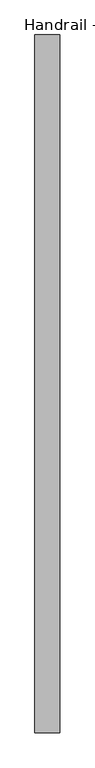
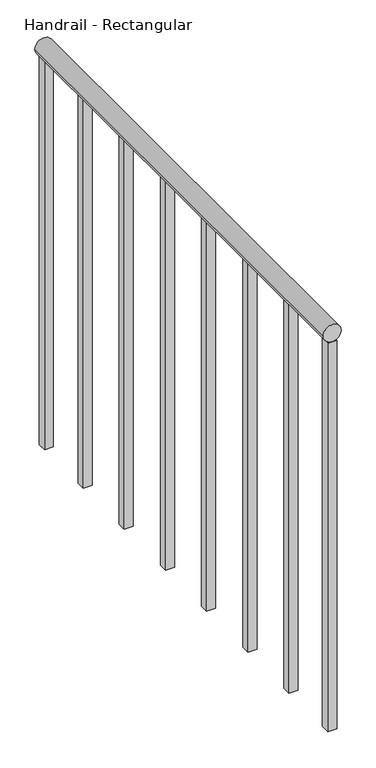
"""IFC4 building model written with IfcOpenShell, lengths in millimetres: railing geometry, Handrail - Rectangular."""

from ifc_helpers import new_model, si_unit, point, frame, frame_2d, origin, place, context, project, spatial, polyline, circle_curve, trimmed, segment, composite_curve, outline, extrude, source, transform, mapped, element, save


def handrail_rectangular_7ebbf838(model_context):
    return source(origin(), model_context, "Body", "SweptSolid", [
        extrude(outline(composite_curve([segment(trimmed(circle_curve(frame_2d((3943.35, -32167.4839563)), 19.05), [point((3943.35, -32186.5339563))], [point((3943.35, -32148.4339563))], False, "CARTESIAN"), True, "CONTINUOUS"), segment(trimmed(circle_curve(frame_2d((3943.35, -32167.4839563)), 19.05), [point((3943.35, -32148.4339563))], [point((3943.35, -32186.5339563))], False, "CARTESIAN"), True, "CONTINUOUS")], self_intersect=False)), frame((0.0, 6864.8316867, 0.0), z_axis=(0.0, 1.0, 0.0), x_axis=(0.0, 0.0, 1.0)), (0.0, 0.0, 1.0), 1066.8),
        extrude(outline(polyline([(-32157.9589563, 7026.7566867), (-32157.9589563, 7007.7066867), (-32177.0089563, 7007.7066867), (-32177.0089563, 7026.7566867), (-32157.9589563, 7026.7566867)])), frame((0.0, 0.0, 3048.0), z_axis=(0.0, 0.0, 1.0), x_axis=(1.0, 0.0, 0.0)), (0.0, 0.0, 1.0), 876.3),
        extrude(outline(polyline([(-32157.9589563, 7179.1566867), (-32157.9589563, 7160.1066867), (-32177.0089563, 7160.1066867), (-32177.0089563, 7179.1566867), (-32157.9589563, 7179.1566867)])), frame((0.0, 0.0, 3048.0), z_axis=(0.0, 0.0, 1.0), x_axis=(1.0, 0.0, 0.0)), (0.0, 0.0, 1.0), 876.3),
        extrude(outline(polyline([(-32157.9589563, 7331.5566867), (-32157.9589563, 7312.5066867), (-32177.0089563, 7312.5066867), (-32177.0089563, 7331.5566867), (-32157.9589563, 7331.5566867)])), frame((0.0, 0.0, 3048.0), z_axis=(0.0, 0.0, 1.0), x_axis=(1.0, 0.0, 0.0)), (0.0, 0.0, 1.0), 876.3),
        extrude(outline(polyline([(-32157.9589563, 7483.9566867), (-32157.9589563, 7464.9066867), (-32177.0089563, 7464.9066867), (-32177.0089563, 7483.9566867), (-32157.9589563, 7483.9566867)])), frame((0.0, 0.0, 3048.0), z_axis=(0.0, 0.0, 1.0), x_axis=(1.0, 0.0, 0.0)), (0.0, 0.0, 1.0), 876.3),
        extrude(outline(polyline([(-32157.9589563, 7636.3566867), (-32157.9589563, 7617.3066867), (-32177.0089563, 7617.3066867), (-32177.0089563, 7636.3566867), (-32157.9589563, 7636.3566867)])), frame((0.0, 0.0, 3048.0), z_axis=(0.0, 0.0, 1.0), x_axis=(1.0, 0.0, 0.0)), (0.0, 0.0, 1.0), 876.3),
        extrude(outline(polyline([(-32157.9589563, 7788.7566867), (-32157.9589563, 7769.7066867), (-32177.0089563, 7769.7066867), (-32177.0089563, 7788.7566867), (-32157.9589563, 7788.7566867)])), frame((0.0, 0.0, 3048.0), z_axis=(0.0, 0.0, 1.0), x_axis=(1.0, 0.0, 0.0)), (0.0, 0.0, 1.0), 876.3),
        extrude(outline(polyline([(-32157.9589563, 6883.8816867), (-32157.9589563, 6864.8316867), (-32177.0089563, 6864.8316867), (-32177.0089563, 6883.8816867), (-32157.9589563, 6883.8816867)])), frame((0.0, 0.0, 3048.0), z_axis=(0.0, 0.0, 1.0), x_axis=(1.0, 0.0, 0.0)), (0.0, 0.0, 1.0), 876.3),
        extrude(outline(polyline([(-32157.9589563, 7931.6316867), (-32157.9589563, 7912.5816867), (-32177.0089563, 7912.5816867), (-32177.0089563, 7931.6316867), (-32157.9589563, 7931.6316867)])), frame((0.0, 0.0, 3048.0), z_axis=(0.0, 0.0, 1.0), x_axis=(1.0, 0.0, 0.0)), (0.0, 0.0, 1.0), 876.3),
    ])


if __name__ == "__main__":
    model = new_model("IFC4")
    model_context = context("Model", 3, world=origin())
    ifc_project = project(units=[si_unit("LENGTHUNIT", "METRE", prefix="MILLI")], contexts=[model_context])
    site = spatial("IfcSite", under=ifc_project)
    building = spatial("IfcBuilding", under=site)
    placement = place(None, origin())
    handrail_rectangular_shape = handrail_rectangular_7ebbf838(model_context)
    element("IfcRailing", 1, ObjectType="Handrail - Rectangular", at=placement, inside=building, context=model_context, shape_type="MappedRepresentation", body=[
        mapped(handrail_rectangular_shape, transform((0.0, 0.0, 0.0), x_axis=(1.0, 0.0, 0.0), y_axis=(0.0, 1.0, 0.0), z_axis=(0.0, 0.0, 1.0))),
    ])
    save(model, "model.ifc")
